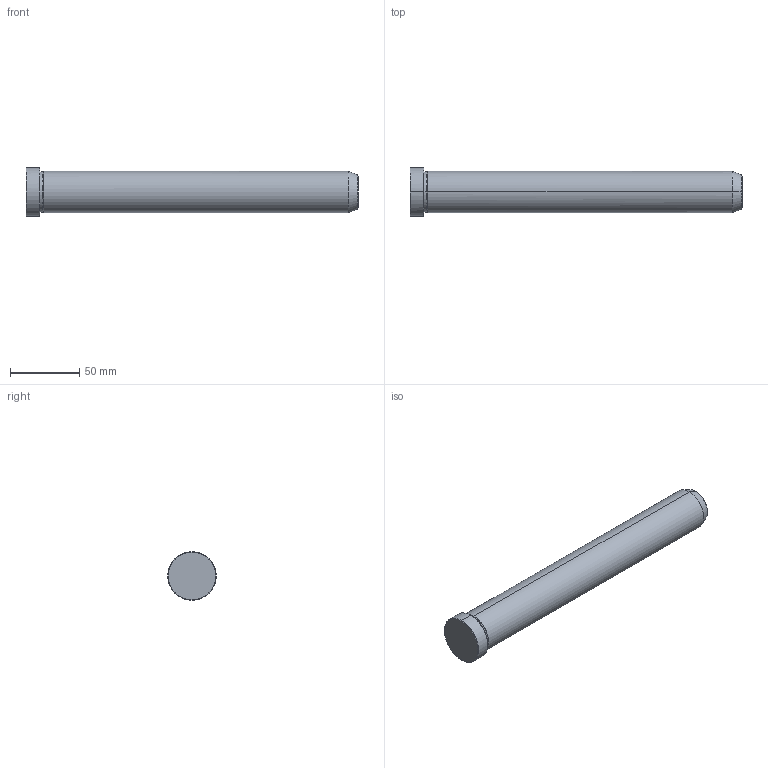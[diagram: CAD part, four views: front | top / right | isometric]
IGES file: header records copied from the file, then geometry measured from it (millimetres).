
Start section: START RECORD GO HERE.
Global section: file name: 549-30X240.igs; native system: DASSAULT SYSTEMES CATIA V5 R20 - www.3ds.com; preprocessor: CATIA Version 5 Release 20 ; author: Utente; organization: NB04-ASUS; date: 20211217.203415; units: millimetre
Bounding box: 240 x 35 x 35 mm (x, y, z)
Surface area: 24443.7 mm2 (no closed solid volume)
Topology: 0 solids, 0 shells, 19 faces, 112 edges, 112 vertices
Faces by surface type: revolution 16, plane 3
